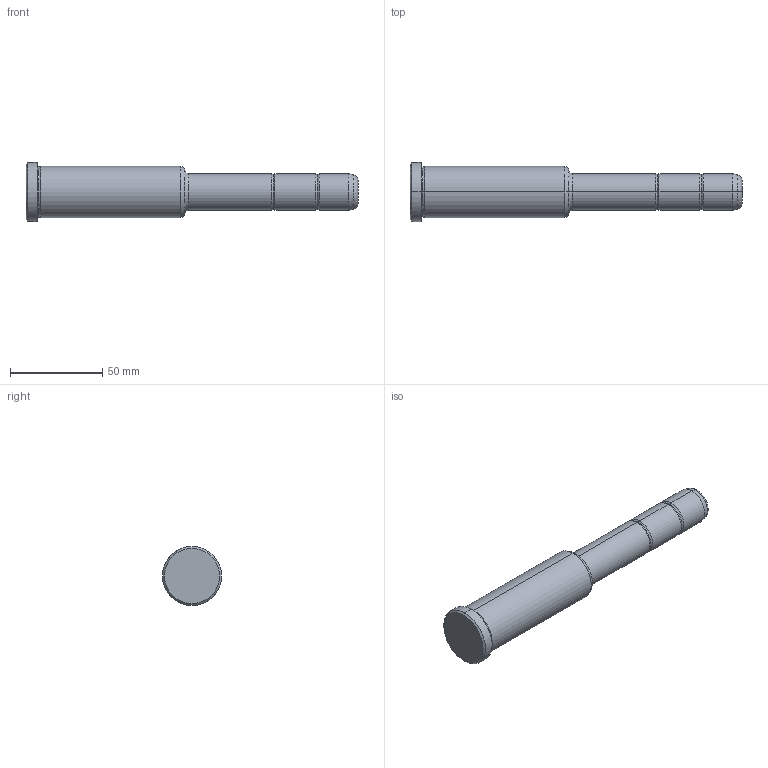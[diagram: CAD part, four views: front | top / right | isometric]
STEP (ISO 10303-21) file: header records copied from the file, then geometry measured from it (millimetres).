
FILE_DESCRIPTION(('CATIA V5 STEP Exchange'),'2;1');
FILE_NAME('C:\Users\Utente\Desktop\IO LAVORO\3D X SITO CF\X SITO\PLASTICA\351\351-20X86X180.stp','2021-08-27T13:05:50+00:00',('none'),('none'),'CATIA Version 5 Release 20 GA (IN-10)','CATIA V5 STEP AP203','none');
FILE_SCHEMA(('CONFIG_CONTROL_DESIGN'));
Length unit declared in the file: millimetre
Products named in the file (1): 351-20X86X180
Bounding box: 180 x 32 x 32 mm (x, y, z)
Volume: 83124.4 mm3; surface area: 14889.2 mm2
Topology: 1 solids, 1 shells, 36 faces, 102 edges, 70 vertices
Faces by surface type: torus 16, cylinder 10, cone 6, plane 4
Entity records: 1292 total; most frequent: CARTESIAN_POINT 321, ORIENTED_EDGE 204, DIRECTION 166, AXIS2_PLACEMENT_3D 115, EDGE_CURVE 102, CIRCLE 78, VERTEX_POINT 70, EDGE_LOOP 38
